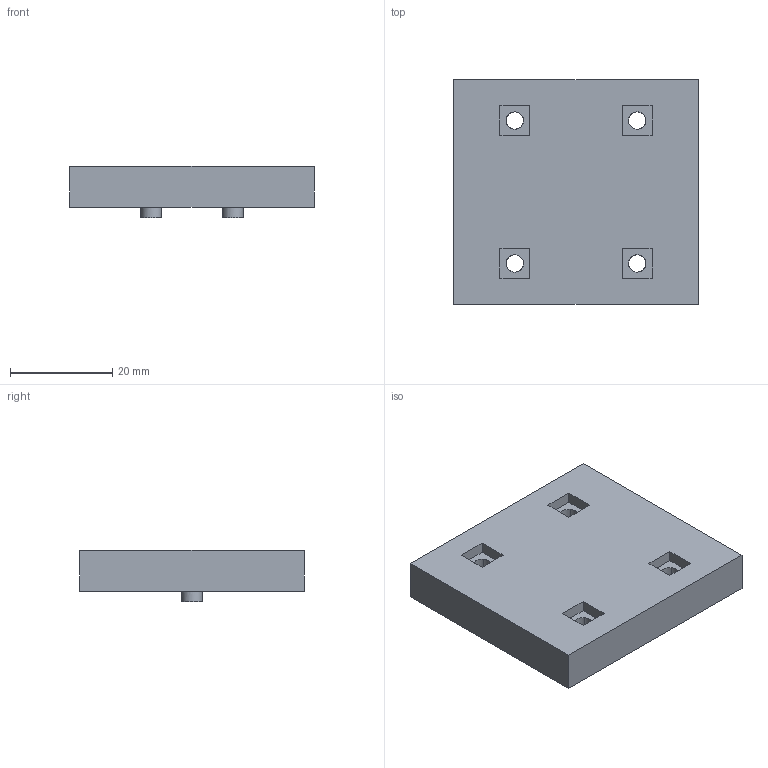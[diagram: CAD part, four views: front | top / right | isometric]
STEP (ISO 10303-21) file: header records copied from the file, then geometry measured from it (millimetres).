
FILE_DESCRIPTION(('Base splice and hand/dowel native rebuild. P1 head/arm retained as imported base geometry.'),'2;1');
FILE_NAME('SEAM_SPLICE_2_REAR.step','',(''),(''),'SolidCraft','SolidCraft','');
FILE_SCHEMA(('AP242_MANAGED_MODEL_BASED_3D_ENGINEERING_MIM_LF { 1 0 10303 442 1 1 4 }'));
Length unit declared in the file: millimetre
Products named in the file (1): SEAM_SPLICE_2_REAR
Bounding box: 48 x 44 x 10 mm (x, y, z)
Volume: 16439.6 mm3; surface area: 6125.6 mm2
Topology: 1 solids, 1 shells, 38 faces, 102 edges, 72 vertices
Faces by surface type: plane 28, cylinder 10
Full cylindrical faces by diameter (mm): 3.4 x4, 4 x2
Entity records: 945 total; most frequent: CARTESIAN_POINT 215, ORIENTED_EDGE 204, EDGE_CURVE 102, LINE 74, VERTEX_POINT 72, EDGE_LOOP 52, FACE_BOUND 52, AXIS2_PLACEMENT_3D 39
